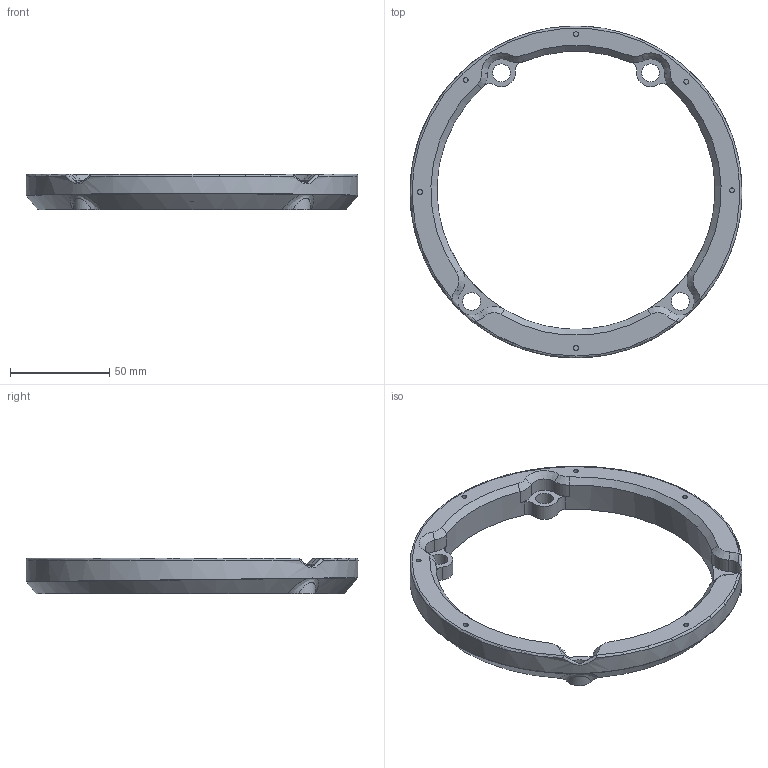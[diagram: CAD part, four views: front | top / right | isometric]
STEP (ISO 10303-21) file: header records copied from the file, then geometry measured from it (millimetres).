
FILE_DESCRIPTION(/* description */ (''),/* implementation_level */ '2;1');
FILE_NAME(/* name */ 'C:/Users/Dan Spencer/Desktop/Switch locations/Speaker Ring v3.step',/* time_stamp */ '2020-09-22T00:17:02+01:00',/* author */ (''),/* organization */ (''),/* preprocessor_version */ 'ST-DEVELOPER v18.1',/* originating_system */ 'Autodesk Translation Framework v9.3.0.1241',/* authorisation */ '');
FILE_SCHEMA (('AUTOMOTIVE_DESIGN { 1 0 10303 214 3 1 1 }'));
Length unit declared in the file: millimetre
Products named in the file (1): Speaker Ring
Bounding box: 167 x 167 x 18 mm (x, y, z)
Volume: 97368.5 mm3; surface area: 29132.7 mm2
Topology: 1 solids, 1 shells, 80 faces, 199 edges, 124 vertices
Faces by surface type: cylinder 33, cone 20, plane 13, bspline 12, torus 2
Full cylindrical faces by diameter (mm): 2.5 x6, 9 x4, 167 x1
Entity records: 3257 total; most frequent: CARTESIAN_POINT 1337, DIRECTION 397, ORIENTED_EDGE 394, EDGE_CURVE 197, AXIS2_PLACEMENT_3D 173, VERTEX_POINT 124, CIRCLE 104, EDGE_LOOP 95
